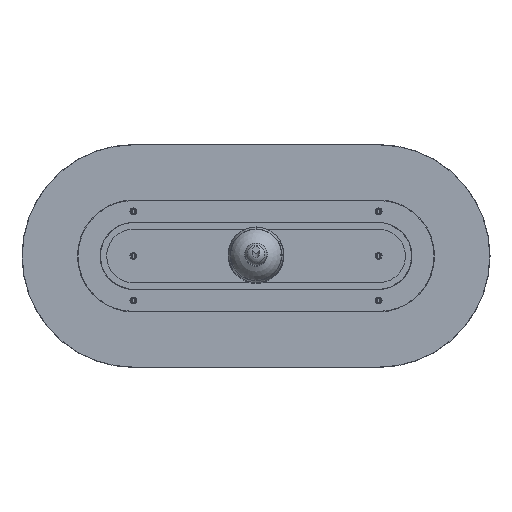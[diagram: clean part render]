
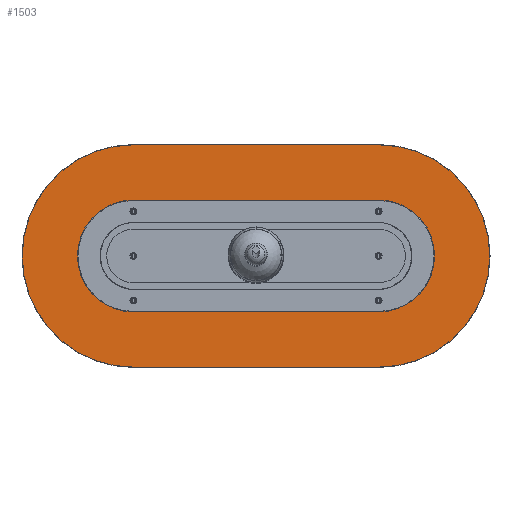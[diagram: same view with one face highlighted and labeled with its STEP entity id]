
A CAD part, top view. The second image highlights one B-rep face of the part: STEP entity #1503.
In plain terms, the highlighted planar face has unit normal (0, 0, 1).
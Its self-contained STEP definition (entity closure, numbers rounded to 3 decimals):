
#1408=CARTESIAN_POINT('',(14632.332,-1640.504,20.));
#1409=DIRECTION('',(0.,0.,1.));
#1410=DIRECTION('',(-1.,0.,0.));
#1411=AXIS2_PLACEMENT_3D('',#1408,#1409,#1410);
#1412=PLANE('',#1411);
#1413=CARTESIAN_POINT('',(13437.269,-3360.841,20.));
#1414=VERTEX_POINT('',#1413);
#1415=CARTESIAN_POINT('',(13327.269,-3360.841,20.));
#1416=VERTEX_POINT('',#1415);
#1417=CARTESIAN_POINT('',(13437.269,-3360.841,20.));
#1418=DIRECTION('',(-1.,-0.,0.));
#1419=VECTOR('',#1418,110.);
#1420=LINE('',#1417,#1419);
#1421=EDGE_CURVE('',#1414,#1416,#1420,.T.);
#1422=ORIENTED_EDGE('',*,*,#1421,.T.);
#1423=CARTESIAN_POINT('',(13327.269,-3310.641,20.));
#1424=VERTEX_POINT('',#1423);
#1425=CARTESIAN_POINT('',(13327.269,-3335.741,20.));
#1426=DIRECTION('',(-0.,-0.,-1.));
#1427=DIRECTION('',(1.,0.,-0.));
#1428=AXIS2_PLACEMENT_3D('',#1425,#1426,#1427);
#1429=CIRCLE('',#1428,25.1);
#1430=EDGE_CURVE('',#1416,#1424,#1429,.T.);
#1431=ORIENTED_EDGE('',*,*,#1430,.T.);
#1432=CARTESIAN_POINT('',(13437.269,-3310.641,20.));
#1433=VERTEX_POINT('',#1432);
#1434=CARTESIAN_POINT('',(13327.269,-3310.641,20.));
#1435=DIRECTION('',(1.,0.,-0.));
#1436=VECTOR('',#1435,110.);
#1437=LINE('',#1434,#1436);
#1438=EDGE_CURVE('',#1424,#1433,#1437,.T.);
#1439=ORIENTED_EDGE('',*,*,#1438,.T.);
#1440=CARTESIAN_POINT('',(13462.369,-3335.741,20.));
#1441=VERTEX_POINT('',#1440);
#1442=CARTESIAN_POINT('',(13437.269,-3335.741,20.));
#1443=DIRECTION('',(-0.,-0.,-1.));
#1444=DIRECTION('',(1.,0.,-0.));
#1445=AXIS2_PLACEMENT_3D('',#1442,#1443,#1444);
#1446=CIRCLE('',#1445,25.1);
#1447=EDGE_CURVE('',#1433,#1441,#1446,.T.);
#1448=ORIENTED_EDGE('',*,*,#1447,.T.);
#1449=CARTESIAN_POINT('',(13437.269,-3335.741,20.));
#1450=DIRECTION('',(-0.,-0.,-1.));
#1451=DIRECTION('',(1.,0.,-0.));
#1452=AXIS2_PLACEMENT_3D('',#1449,#1450,#1451);
#1453=CIRCLE('',#1452,25.1);
#1454=EDGE_CURVE('',#1441,#1414,#1453,.T.);
#1455=ORIENTED_EDGE('',*,*,#1454,.T.);
#1456=EDGE_LOOP('',(#1422,#1431,#1439,#1448,#1455));
#1457=FACE_BOUND('',#1456,.T.);
#1458=CARTESIAN_POINT('',(13437.269,-3285.841,20.));
#1459=VERTEX_POINT('',#1458);
#1460=CARTESIAN_POINT('',(13327.269,-3285.841,20.));
#1461=VERTEX_POINT('',#1460);
#1462=CARTESIAN_POINT('',(13437.269,-3285.841,20.));
#1463=DIRECTION('',(-1.,0.,0.));
#1464=VECTOR('',#1463,110.);
#1465=LINE('',#1462,#1464);
#1466=EDGE_CURVE('',#1459,#1461,#1465,.T.);
#1467=ORIENTED_EDGE('',*,*,#1466,.T.);
#1468=CARTESIAN_POINT('',(13277.369,-3335.741,20.));
#1469=VERTEX_POINT('',#1468);
#1470=CARTESIAN_POINT('',(13327.269,-3335.741,20.));
#1471=DIRECTION('',(0.,0.,1.));
#1472=DIRECTION('',(1.,0.,-0.));
#1473=AXIS2_PLACEMENT_3D('',#1470,#1471,#1472);
#1474=CIRCLE('',#1473,49.9);
#1475=EDGE_CURVE('',#1461,#1469,#1474,.T.);
#1476=ORIENTED_EDGE('',*,*,#1475,.T.);
#1477=CARTESIAN_POINT('',(13327.269,-3385.641,20.));
#1478=VERTEX_POINT('',#1477);
#1479=CARTESIAN_POINT('',(13327.269,-3335.741,20.));
#1480=DIRECTION('',(0.,0.,1.));
#1481=DIRECTION('',(1.,0.,-0.));
#1482=AXIS2_PLACEMENT_3D('',#1479,#1480,#1481);
#1483=CIRCLE('',#1482,49.9);
#1484=EDGE_CURVE('',#1469,#1478,#1483,.T.);
#1485=ORIENTED_EDGE('',*,*,#1484,.T.);
#1486=CARTESIAN_POINT('',(13437.269,-3385.641,20.));
#1487=VERTEX_POINT('',#1486);
#1488=CARTESIAN_POINT('',(13327.269,-3385.641,20.));
#1489=DIRECTION('',(1.,0.,-0.));
#1490=VECTOR('',#1489,110.);
#1491=LINE('',#1488,#1490);
#1492=EDGE_CURVE('',#1478,#1487,#1491,.T.);
#1493=ORIENTED_EDGE('',*,*,#1492,.T.);
#1494=CARTESIAN_POINT('',(13437.269,-3335.741,20.));
#1495=DIRECTION('',(0.,0.,1.));
#1496=DIRECTION('',(1.,0.,-0.));
#1497=AXIS2_PLACEMENT_3D('',#1494,#1495,#1496);
#1498=CIRCLE('',#1497,49.9);
#1499=EDGE_CURVE('',#1487,#1459,#1498,.T.);
#1500=ORIENTED_EDGE('',*,*,#1499,.T.);
#1501=EDGE_LOOP('',(#1467,#1476,#1485,#1493,#1500));
#1502=FACE_BOUND('',#1501,.T.);
#1503=ADVANCED_FACE('',(#1457,#1502),#1412,.T.);
